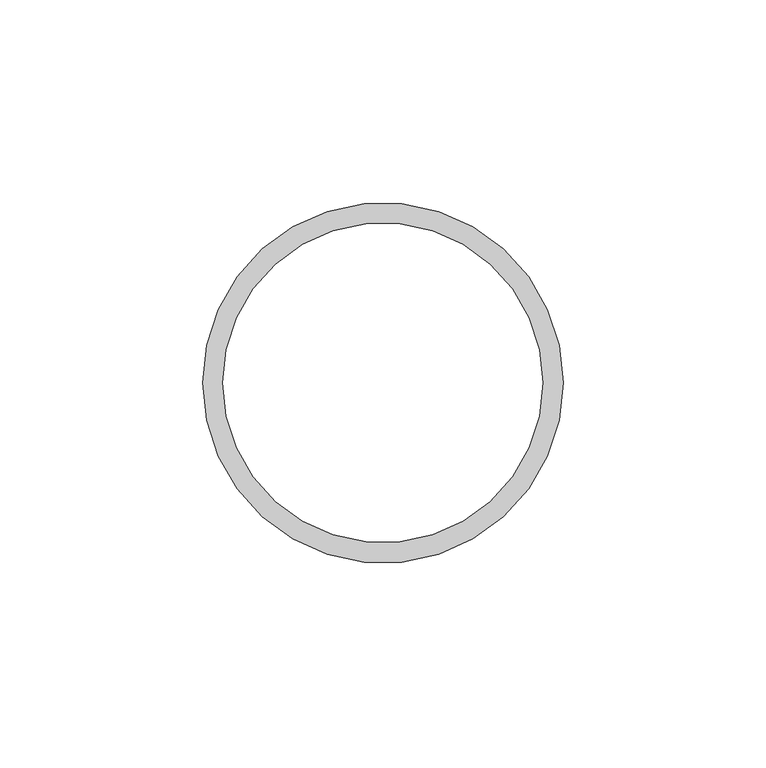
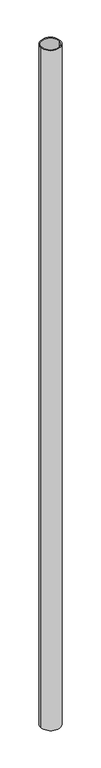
"""IFC4 building model written with IfcOpenShell, lengths in millimetres: column geometry, NLRS_28_SC_TLB_kolom buis_generiek_ISR : ø88.9x5 ."""

import ifcopenshell
import ifcopenshell.guid

model = None  # the IFC model being written
_history = None  # IfcOwnerHistory: only IFC2X3 demands one
_inside = {}  # id of a spatial element -> (the spatial element, [elements in it])
_under = {}  # id of a project, library or spatial element -> (it, [spatial elements below it])
_declared = {}  # id of a project -> (the project, [libraries it declares])
_typed = {}  # id of a type object -> (the type object, [elements of that type])
_made_of = {}  # id of a material, layer set ... -> (it, [elements and type objects made of it])


def new_model(schema):
    """Start an empty IFC model of exactly this schema.

    Asked for "IFC4X3", IfcOpenShell would pick the latest addendum, in which some entities
    have other attributes; the version numbers below select the first issue.
    IFC2X3 requires an IfcOwnerHistory on every rooted entity: one is made here for all.
    """
    global model, _history
    if schema == "IFC4X3":
        model = ifcopenshell.file(schema_version=(4, 3, 0, 0))
    else:
        model = ifcopenshell.file(schema=schema)
    _inside.clear()
    _under.clear()
    _declared.clear()
    _typed.clear()
    _made_of.clear()
    _history = None
    if model.schema == "IFC2X3":
        org = make("IfcOrganization", Name="unknown")
        user = make(
            "IfcPersonAndOrganization",
            ThePerson=make("IfcPerson", FamilyName="unknown"),
            TheOrganization=org,
        )
        app = make(
            "IfcApplication",
            ApplicationDeveloper=org,
            Version="unknown",
            ApplicationFullName="unknown",
            ApplicationIdentifier="unknown",
        )
        _history = make(
            "IfcOwnerHistory",
            OwningUser=user,
            OwningApplication=app,
            ChangeAction="ADDED",
            CreationDate=0,
        )
    return model


def make(cls, **values):
    """One entity of the class cls with the attributes given. An attribute that is None is left unset."""
    return model.create_entity(
        cls, **{name: value for name, value in values.items() if value is not None}
    )


def rooted(cls, **values):
    """An entity with a GlobalId (a new one), such as an element, a storey or a relation."""
    return make(cls, GlobalId=ifcopenshell.guid.new(), OwnerHistory=_history, **values)


def si_unit(unit_type, name, prefix=None):
    """IfcSIUnit, for example si_unit("LENGTHUNIT", "METRE", prefix="MILLI")."""
    return make("IfcSIUnit", UnitType=unit_type, Prefix=prefix, Name=name)


def assignment(units):
    """IfcUnitAssignment: the units of a project."""
    return None if units is None else make("IfcUnitAssignment", Units=units)


def point(xyz):
    """IfcCartesianPoint."""
    return None if xyz is None else make("IfcCartesianPoint", Coordinates=xyz)


def direction(xyz):
    """IfcDirection."""
    return None if xyz is None else make("IfcDirection", DirectionRatios=xyz)


def frame(location, z_axis=None, x_axis=None):
    """IfcAxis2Placement3D, a coordinate frame: its origin and axes. An axis left out is left unset."""
    return make(
        "IfcAxis2Placement3D",
        Location=point(location),
        Axis=direction(z_axis),
        RefDirection=direction(x_axis),
    )


def frame_2d(location, x_axis=None):
    """IfcAxis2Placement2D, a coordinate frame in the plane: its origin and x axis."""
    return make(
        "IfcAxis2Placement2D", Location=point(location), RefDirection=direction(x_axis)
    )


def origin():
    """The frame at (0, 0, 0) with its axes left unset."""
    return frame((0.0, 0.0, 0.0))


def origin_2d():
    """The frame at (0, 0) in the plane with its x axis left unset."""
    return frame_2d((0.0, 0.0))


def place(relative_to, where):
    """IfcLocalPlacement: puts the frame where relative to a parent placement (None: the world)."""
    return make(
        "IfcLocalPlacement", PlacementRelTo=relative_to, RelativePlacement=where
    )


def context(
    kind, dimensions, precision=None, world=None, true_north=None, identifier=None
):
    """IfcGeometricRepresentationContext, for example the 3D "Model" context."""
    return make(
        "IfcGeometricRepresentationContext",
        ContextIdentifier=identifier,
        ContextType=kind,
        CoordinateSpaceDimension=dimensions,
        Precision=precision,
        WorldCoordinateSystem=world,
        TrueNorth=true_north,
    )


def project(units=None, contexts=None):
    """IfcProject with its units and contexts."""
    return rooted(
        "IfcProject",
        Name="project",
        RepresentationContexts=contexts,
        UnitsInContext=assignment(units),
    )


def spatial(cls, under=None, at=None, **own):
    """A site, building, storey or space (cls), placed at a placement, below another one or the project."""
    s = rooted(cls, ObjectPlacement=at, **own)
    if under is not None:
        _under.setdefault(under.id(), (under, []))[1].append(s)
    return s


def circle_curve(where, radius):
    """IfcCircle in the frame where."""
    return make("IfcCircle", Position=where, Radius=radius)


def trimmed(basis, trim1, trim2, sense, master):
    """IfcTrimmedCurve: the piece of a basis curve between two trims."""
    return make(
        "IfcTrimmedCurve",
        BasisCurve=basis,
        Trim1=trim1,
        Trim2=trim2,
        SenseAgreement=sense,
        MasterRepresentation=master,
    )


def segment(curve, same_sense, transition):
    """IfcCompositeCurveSegment."""
    return make(
        "IfcCompositeCurveSegment",
        Transition=transition,
        SameSense=same_sense,
        ParentCurve=curve,
    )


def composite_curve(segments, self_intersect=None):
    """IfcCompositeCurve: segments joined end to end."""
    return make("IfcCompositeCurve", Segments=segments, SelfIntersect=self_intersect)


def outline(outer, holes=None, kind="AREA"):
    """IfcArbitraryClosedProfileDef: a profile drawn as a closed curve; with holes, ...WithVoids."""
    if holes is None:
        return make("IfcArbitraryClosedProfileDef", ProfileType=kind, OuterCurve=outer)
    return make(
        "IfcArbitraryProfileDefWithVoids",
        ProfileType=kind,
        OuterCurve=outer,
        InnerCurves=holes,
    )


def extrude(swept, where, along, depth):
    """IfcExtrudedAreaSolid: the profile swept, set in the frame where, extruded along a direction by depth."""
    return make(
        "IfcExtrudedAreaSolid",
        SweptArea=swept,
        Position=where,
        ExtrudedDirection=direction(along),
        Depth=depth,
    )


def shape(context_of_items, identifier, shape_type, items):
    """IfcShapeRepresentation: the items that make up one representation, for example the "Body"."""
    return make(
        "IfcShapeRepresentation",
        ContextOfItems=context_of_items,
        RepresentationIdentifier=identifier,
        RepresentationType=shape_type,
        Items=items,
    )


def source(mapping_origin, context_of_items, identifier, shape_type, items):
    """IfcRepresentationMap: a shape defined once, which mapped items show again and again."""
    return make(
        "IfcRepresentationMap",
        MappingOrigin=mapping_origin,
        MappedRepresentation=shape(context_of_items, identifier, shape_type, items),
    )


def transform(
    local_origin,
    x_axis=None,
    y_axis=None,
    z_axis=None,
    scale=None,
    scale2=None,
    scale3=None,
    uniform=True,
):
    """IfcCartesianTransformationOperator3D, or its non-uniform kind. x_axis, y_axis, z_axis: its Axis1, 2, 3."""
    if uniform:
        return make(
            "IfcCartesianTransformationOperator3D",
            Axis1=direction(x_axis),
            Axis2=direction(y_axis),
            LocalOrigin=point(local_origin),
            Scale=scale,
            Axis3=direction(z_axis),
        )
    return make(
        "IfcCartesianTransformationOperator3DnonUniform",
        Axis1=direction(x_axis),
        Axis2=direction(y_axis),
        LocalOrigin=point(local_origin),
        Scale=scale,
        Axis3=direction(z_axis),
        Scale2=scale2,
        Scale3=scale3,
    )


def mapped(mapping_source, mapping_target):
    """IfcMappedItem: shows the shape of a source again, moved by a transform."""
    return make(
        "IfcMappedItem", MappingSource=mapping_source, MappingTarget=mapping_target
    )


def made_of(thing, what):
    """Note that an element or type object is made of a material, layer set ...; save() writes the relation."""
    if what is not None:
        _made_of.setdefault(what.id(), (what, []))[1].append(thing)
    return thing


def element(
    cls,
    number,
    at=None,
    inside=None,
    cuts=None,
    type_object=None,
    material=None,
    context=None,
    identifier="Body",
    shape_type=None,
    held_by="IfcProductDefinitionShape",
    body=None,
    shapes=None,
    **own,
):
    """One element of the class cls, such as IfcWall. Its Tag is "e" and its number.

    at: its placement. inside: the storey or other place that contains it. cuts: it is an
    opening in that element (IfcRelVoidsElement). A single representation is given by context,
    identifier, shape_type and body (its items); several are given by shapes. held_by: the class
    of the entity that holds the representations. save() writes the other relations.
    """
    e = rooted(cls, Tag="e%d" % number, ObjectPlacement=at, **own)
    if body is not None:
        shapes = [shape(context, identifier, shape_type, body)]
    if shapes is not None:
        e.Representation = make(held_by, Representations=shapes)
    if inside is not None:
        _inside.setdefault(inside.id(), (inside, []))[1].append(e)
    if cuts is not None:
        rooted(
            "IfcRelVoidsElement", RelatingBuildingElement=cuts, RelatedOpeningElement=e
        )
    if type_object is not None:
        _typed.setdefault(type_object.id(), (type_object, []))[1].append(e)
    return made_of(e, material)


def aggregate(whole, parts):
    """IfcRelAggregates: a whole, such as a stair, and the parts it consists of."""
    return rooted("IfcRelAggregates", RelatingObject=whole, RelatedObjects=parts)


def save(model, path):
    """Write the relations noted so far, then the file.

    IfcRelAggregates (storeys below a building ...), IfcRelContainedInSpatialStructure (elements
    in a storey), IfcRelDefinesByType, IfcRelAssociatesMaterial and IfcRelDeclares: one each for
    every whole, place, type object, material and project.
    """
    for whole, parts in _under.values():
        aggregate(whole, parts)
    for where, things in _inside.values():
        rooted(
            "IfcRelContainedInSpatialStructure",
            RelatedElements=things,
            RelatingStructure=where,
        )
    for kind, things in _typed.values():
        rooted("IfcRelDefinesByType", RelatedObjects=things, RelatingType=kind)
    for what, things in _made_of.values():
        rooted("IfcRelAssociatesMaterial", RelatedObjects=things, RelatingMaterial=what)
    for by, libraries in _declared.values():
        rooted("IfcRelDeclares", RelatingContext=by, RelatedDefinitions=libraries)
    model.write(path)


def column_339aa583(model_context):
    return source(origin(), model_context, "Body", "SweptSolid", [
        extrude(outline(composite_curve([segment(trimmed(circle_curve(origin_2d(), 44.45), [point((44.45, 0.0))], [point((-44.45, 0.0))], False, "CARTESIAN"), True, "CONTINUOUS"), segment(trimmed(circle_curve(origin_2d(), 44.45), [point((-44.45, 0.0))], [point((44.45, 0.0))], False, "CARTESIAN"), True, "CONTINUOUS")], self_intersect=False), holes=[composite_curve([segment(trimmed(circle_curve(origin_2d(), 39.45), [point((39.45, 0.0))], [point((-39.45, 0.0))], True, "CARTESIAN"), True, "CONTINUOUS"), segment(trimmed(circle_curve(origin_2d(), 39.45), [point((-39.45, 0.0))], [point((39.45, 0.0))], True, "CARTESIAN"), True, "CONTINUOUS")], self_intersect=False)]), frame((0.0, 0.0, 3500.0), z_axis=(0.0, 0.0, 1.0), x_axis=(1.0, 0.0, 0.0)), (0.0, 0.0, 1.0), 3200.0),
    ])


if __name__ == "__main__":
    model = new_model("IFC4")
    model_context = context("Model", 3, world=origin())
    ifc_project = project(units=[si_unit("LENGTHUNIT", "METRE", prefix="MILLI")], contexts=[model_context])
    site = spatial("IfcSite", under=ifc_project)
    building = spatial("IfcBuilding", under=site)
    placement = place(None, origin())
    column_shape = column_339aa583(model_context)
    element("IfcColumn", 1, ObjectType="NLRS_28_SC_TLB_kolom buis_generiek_ISR : ø88.9x5 ", at=placement, inside=building, context=model_context, shape_type="MappedRepresentation", body=[
        mapped(column_shape, transform((0.0, 0.0, 0.0), x_axis=(1.0, 0.0, 0.0), y_axis=(0.0, 1.0, 0.0), z_axis=(0.0, 0.0, 1.0))),
    ])
    save(model, "model.ifc")
